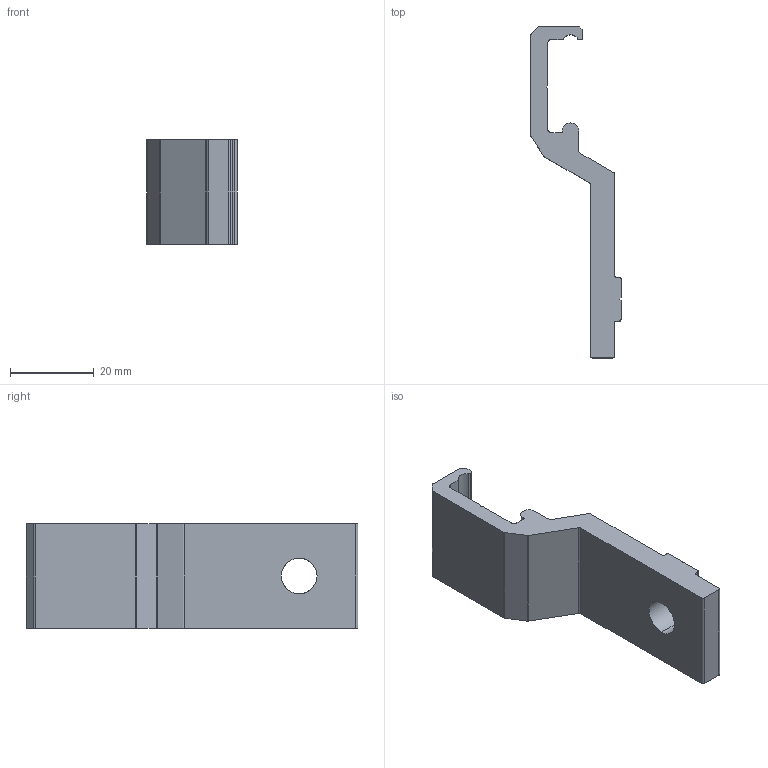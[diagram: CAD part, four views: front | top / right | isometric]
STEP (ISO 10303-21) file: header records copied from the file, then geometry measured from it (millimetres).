
FILE_DESCRIPTION (( 'STEP AP214' ), '1' );
FILE_NAME ('FGRB 16X42.step', '2017-04-05T07:37:29', ( '' ), ( '' ), 'SwSTEP 2.0', 'SolidWorks 2015', '' );
FILE_SCHEMA (( 'AUTOMOTIVE_DESIGN' ));
Length unit declared in the file: millimetre
Products named in the file (1): FGRB 16X42
Bounding box: 21.5 x 79.1 x 25 mm (x, y, z)
Volume: 12192.6 mm3; surface area: 6278.9 mm2
Topology: 1 solids, 1 shells, 55 faces, 160 edges, 106 vertices
Faces by surface type: plane 31, cylinder 24
Entity records: 1864 total; most frequent: CARTESIAN_POINT 334, ORIENTED_EDGE 320, DIRECTION 316, EDGE_CURVE 160, LINE 108, VECTOR 108, VERTEX_POINT 106, AXIS2_PLACEMENT_3D 104
